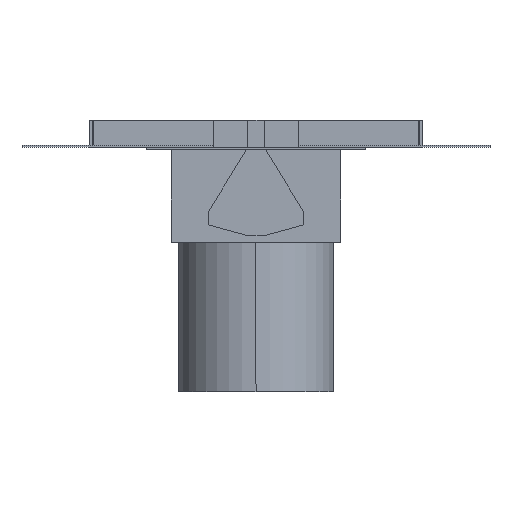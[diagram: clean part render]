
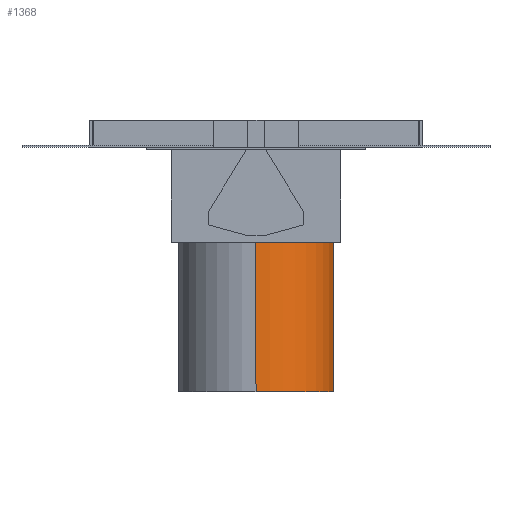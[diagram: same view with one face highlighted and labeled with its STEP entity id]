
A CAD part, left-side view. The second image highlights one B-rep face of the part: STEP entity #1368.
In plain terms, the highlighted cylindrical face has radius 57.35 mm (diameter 114.7 mm), a partial arc.
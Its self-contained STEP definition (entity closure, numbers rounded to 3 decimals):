
#15=CIRCLE('',#1484,57.35);
#16=CIRCLE('',#1485,57.35);
#19=CYLINDRICAL_SURFACE('',#1483,57.35);
#50=FACE_OUTER_BOUND('',#135,.T.);
#135=EDGE_LOOP('',(#930,#931,#932,#933));
#230=LINE('',#1968,#415);
#231=LINE('',#1971,#416);
#415=VECTOR('',#1600,304.8);
#416=VECTOR('',#1603,304.8);
#595=VERTEX_POINT('',#1964);
#596=VERTEX_POINT('',#1965);
#597=VERTEX_POINT('',#1967);
#598=VERTEX_POINT('',#1969);
#726=EDGE_CURVE('',#595,#596,#15,.T.);
#727=EDGE_CURVE('',#597,#595,#230,.T.);
#728=EDGE_CURVE('',#598,#597,#16,.T.);
#729=EDGE_CURVE('',#596,#598,#231,.T.);
#930=ORIENTED_EDGE('',*,*,#726,.F.);
#931=ORIENTED_EDGE('',*,*,#727,.F.);
#932=ORIENTED_EDGE('',*,*,#728,.F.);
#933=ORIENTED_EDGE('',*,*,#729,.F.);
#1368=ADVANCED_FACE('',(#50),#19,.T.);
#1483=AXIS2_PLACEMENT_3D('',#1963,#1596,#1597);
#1484=AXIS2_PLACEMENT_3D('',#1966,#1598,#1599);
#1485=AXIS2_PLACEMENT_3D('',#1970,#1601,#1602);
#1596=DIRECTION('center_axis',(0.,0.,1.));
#1597=DIRECTION('ref_axis',(-1.,0.,0.));
#1598=DIRECTION('center_axis',(0.,0.,1.));
#1599=DIRECTION('ref_axis',(-1.,0.,0.));
#1600=DIRECTION('',(0.,0.,1.));
#1601=DIRECTION('center_axis',(0.,0.,-1.));
#1602=DIRECTION('ref_axis',(-1.,0.,0.));
#1603=DIRECTION('',(0.,0.,-1.));
#1963=CARTESIAN_POINT('Origin',(0.,0.,
-200.));
#1964=CARTESIAN_POINT('',(-57.35,0.,-32.));
#1965=CARTESIAN_POINT('',(57.35,0.,-32.));
#1966=CARTESIAN_POINT('Origin',(0.,0.,
-32.));
#1967=CARTESIAN_POINT('',(-57.35,0.,-200.));
#1968=CARTESIAN_POINT('',(-57.35,0.,-200.));
#1969=CARTESIAN_POINT('',(57.35,0.,-200.));
#1970=CARTESIAN_POINT('Origin',(0.,0.,
-200.));
#1971=CARTESIAN_POINT('',(57.35,0.,-32.));
